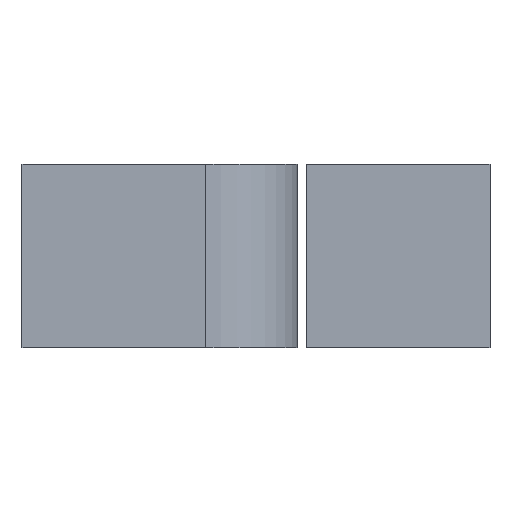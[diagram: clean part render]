
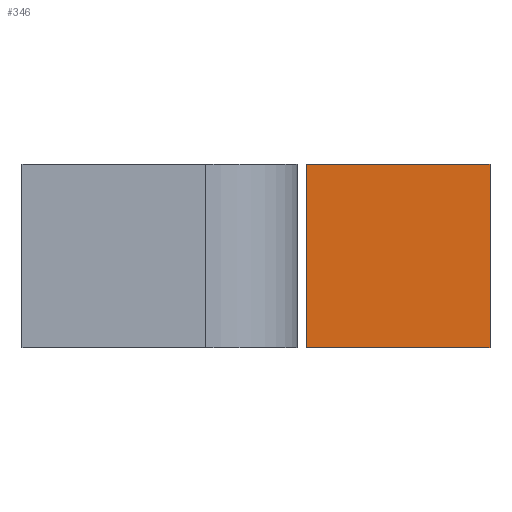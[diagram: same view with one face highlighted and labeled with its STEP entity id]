
A CAD part, left-side view. The second image highlights one B-rep face of the part: STEP entity #346.
In plain terms, the highlighted planar face has unit normal (-1, 0, 0).
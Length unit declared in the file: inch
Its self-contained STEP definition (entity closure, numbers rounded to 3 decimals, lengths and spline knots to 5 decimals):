
#31 = VECTOR ( 'NONE', #192, 39.37008 ) ;
#32 = LINE ( 'NONE', #191, #31 ) ;
#35 = VECTOR ( 'NONE', #188, 39.37008 ) ;
#36 = LINE ( 'NONE', #187, #35 ) ;
#41 = VECTOR ( 'NONE', #182, 39.37008 ) ;
#42 = LINE ( 'NONE', #181, #41 ) ;
#51 = VECTOR ( 'NONE', #172, 39.37008 ) ;
#52 = LINE ( 'NONE', #171, #51 ) ;
#58 = FACE_OUTER_BOUND ( 'NONE', #97, .T. ) ;
#97 = EDGE_LOOP ( 'NONE', ( #118, #119, #120, #121 ) ) ;
#118 = ORIENTED_EDGE ( 'NONE', *, *, #389, .T. ) ;
#119 = ORIENTED_EDGE ( 'NONE', *, *, #394, .T. ) ;
#120 = ORIENTED_EDGE ( 'NONE', *, *, #399, .F. ) ;
#121 = ORIENTED_EDGE ( 'NONE', *, *, #397, .T. ) ;
#141 = VERTEX_POINT ( 'NONE', #512 ) ;
#159 = PLANE ( 'NONE',  #376 ) ;
#160 = CARTESIAN_POINT ( 'NONE',  ( -9.77729, 0., 0. ) ) ;
#161 = DIRECTION ( 'NONE',  ( -1., 0., 0. ) ) ;
#162 = DIRECTION ( 'NONE',  ( 0., 0., 1. ) ) ;
#171 = CARTESIAN_POINT ( 'NONE',  ( -9.77729, 0., 0. ) ) ;
#172 = DIRECTION ( 'NONE',  ( 0., -1., 0. ) ) ;
#181 = CARTESIAN_POINT ( 'NONE',  ( -9.77729, 0., 0. ) ) ;
#182 = DIRECTION ( 'NONE',  ( 0., 0., 1. ) ) ;
#187 = CARTESIAN_POINT ( 'NONE',  ( -9.77729, 1., 0. ) ) ;
#188 = DIRECTION ( 'NONE',  ( 0., 0., -1. ) ) ;
#191 = CARTESIAN_POINT ( 'NONE',  ( -9.77729, 0.5, 1. ) ) ;
#192 = DIRECTION ( 'NONE',  ( 0., -1., 0. ) ) ;
#221 = CARTESIAN_POINT ( 'NONE',  ( -9.77729, 1., 0. ) ) ;
#225 = CARTESIAN_POINT ( 'NONE',  ( -9.77729, 0., 1. ) ) ;
#226 = CARTESIAN_POINT ( 'NONE',  ( -9.77729, 0., 0. ) ) ;
#346 = ADVANCED_FACE ( 'NONE', ( #58 ), #159, .T. ) ;
#376 = AXIS2_PLACEMENT_3D ( 'NONE', #160, #161, #162 ) ;
#389 = EDGE_CURVE ( 'NONE', #515, #520, #52, .T. ) ;
#394 = EDGE_CURVE ( 'NONE', #520, #519, #42, .T. ) ;
#397 = EDGE_CURVE ( 'NONE', #141, #515, #36, .T. ) ;
#399 = EDGE_CURVE ( 'NONE', #141, #519, #32, .T. ) ;
#512 = CARTESIAN_POINT ( 'NONE',  ( -9.77729, 1., 1. ) ) ;
#515 = VERTEX_POINT ( 'NONE', #221 ) ;
#519 = VERTEX_POINT ( 'NONE', #225 ) ;
#520 = VERTEX_POINT ( 'NONE', #226 ) ;
